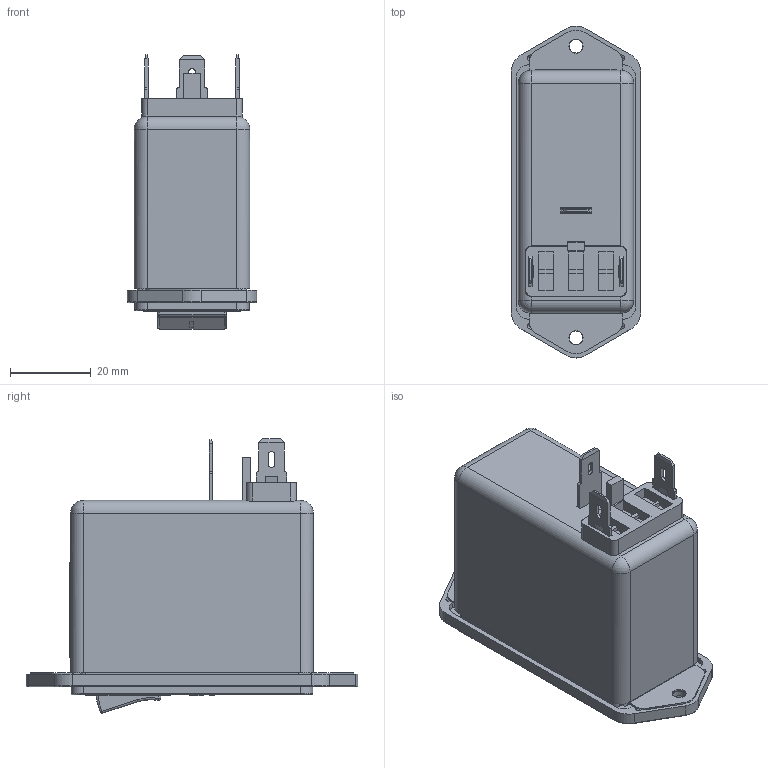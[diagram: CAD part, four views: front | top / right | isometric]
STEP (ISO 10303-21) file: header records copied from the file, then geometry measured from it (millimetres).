
FILE_DESCRIPTION((''),'2;1');
FILE_NAME('D:\_ PRODUCT\FN281-6\_New design for 1fuse\Version_3_update FH_after tel.con_030609\FN281-xx-06_.stp','2012-10-24T09:15:30',('sayan.penton'),(''),'Autodesk Inventor 2010','Autodesk Inventor 2010','');
FILE_SCHEMA(('AUTOMOTIVE_DESIGN { 1 0 10303 214 1 1 1 1 }'));
Length unit declared in the file: millimetre
Products named in the file (1): Part2
Bounding box: 32 x 82 x 67.75 mm (x, y, z)
Volume: 32574 mm3; surface area: 44220.2 mm2
Topology: 1 solids, 1 shells, 3160 faces, 9159 edges, 6019 vertices
Faces by surface type: plane 2523, bspline 436, cylinder 161, torus 18, cone 14, sphere 8
Full cylindrical faces by diameter (mm): 0.46 x1, 0.56 x1, 1.2 x2, 1.5 x2, 2.135 x1, 3 x1, 3.134 x1, 3.3 x2, 3.5 x2, 5.8 x2
Entity records: 117505 total; most frequent: CARTESIAN_POINT 33040, ORIENTED_EDGE 18260, DIRECTION 14450, EDGE_CURVE 9130, VECTOR 8158, LINE 8158, VERTEX_POINT 6015, EDGE_LOOP 3341
